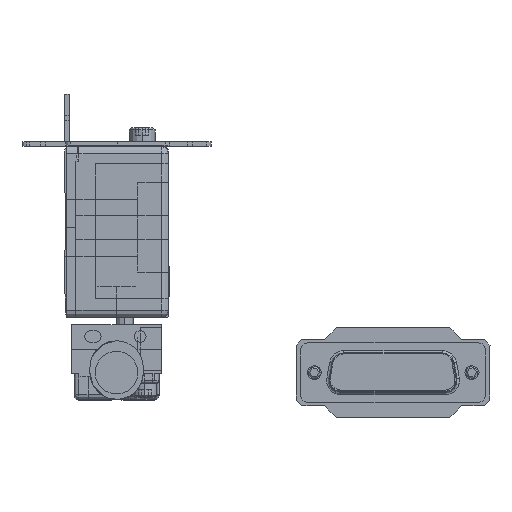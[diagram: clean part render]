
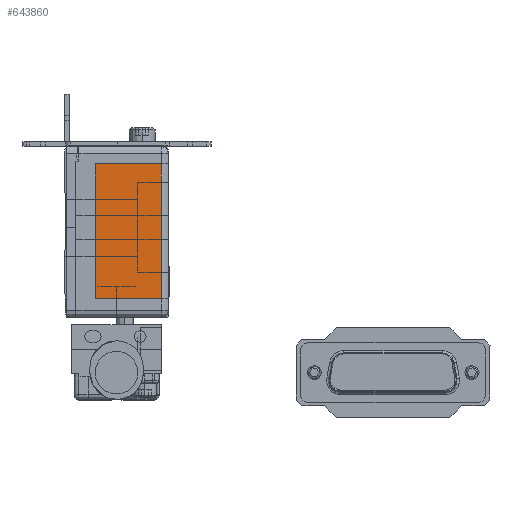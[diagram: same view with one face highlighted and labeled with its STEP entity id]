
A CAD part, left-side view. The second image highlights one B-rep face of the part: STEP entity #643860.
In plain terms, the highlighted planar face has unit normal (-1, 0, 0).
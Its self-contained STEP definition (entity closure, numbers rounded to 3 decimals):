
#643470=CARTESIAN_POINT('',(-1662.7,3.267,5.907));
#643480=DIRECTION('',(-1.,0.,0.));
#643490=DIRECTION('',(0.,1.,0.));
#643500=AXIS2_PLACEMENT_3D('',#643470,#643480,#643490);
#643510=PLANE('',#643500);
#643520=CARTESIAN_POINT('',(-1662.7,0.,
4.));
#643530=DIRECTION('',(0.,1.,0.));
#643540=VECTOR('',#643530,1.);
#643550=LINE('',#643520,#643540);
#643560=CARTESIAN_POINT('',(-1662.7,1.5,4.));
#643570=VERTEX_POINT('',#643560);
#643580=CARTESIAN_POINT('',(-1662.7,15.5,4.));
#643590=VERTEX_POINT('',#643580);
#643600=EDGE_CURVE('',#643570,#643590,#643550,.T.);
#643610=ORIENTED_EDGE('',*,*,#643600,.F.);
#643620=CARTESIAN_POINT('',(-1662.7,15.5,4.));
#643630=DIRECTION('',(0.,0.,1.));
#643640=VECTOR('',#643630,1.);
#643650=LINE('',#643620,#643640);
#643660=CARTESIAN_POINT('',(-1662.7,15.5,32.5));
#643670=VERTEX_POINT('',#643660);
#643680=EDGE_CURVE('',#643590,#643670,#643650,.T.);
#643690=ORIENTED_EDGE('',*,*,#643680,.F.);
#643700=CARTESIAN_POINT('',(-1662.7,15.5,32.5));
#643710=DIRECTION('',(0.,-1.,0.));
#643720=VECTOR('',#643710,1.);
#643730=LINE('',#643700,#643720);
#643740=CARTESIAN_POINT('',(-1662.7,1.5,32.5));
#643750=VERTEX_POINT('',#643740);
#643760=EDGE_CURVE('',#643670,#643750,#643730,.T.);
#643770=ORIENTED_EDGE('',*,*,#643760,.F.);
#643780=CARTESIAN_POINT('',(-1662.7,1.5,36.5));
#643790=DIRECTION('',(0.,0.,-1.));
#643800=VECTOR('',#643790,1.);
#643810=LINE('',#643780,#643800);
#643820=EDGE_CURVE('',#643750,#643570,#643810,.T.);
#643830=ORIENTED_EDGE('',*,*,#643820,.F.);
#643840=EDGE_LOOP('',(#643830,#643770,#643690,#643610));
#643850=FACE_OUTER_BOUND('',#643840,.T.);
#643860=ADVANCED_FACE('',(#643850),#643510,.T.);
